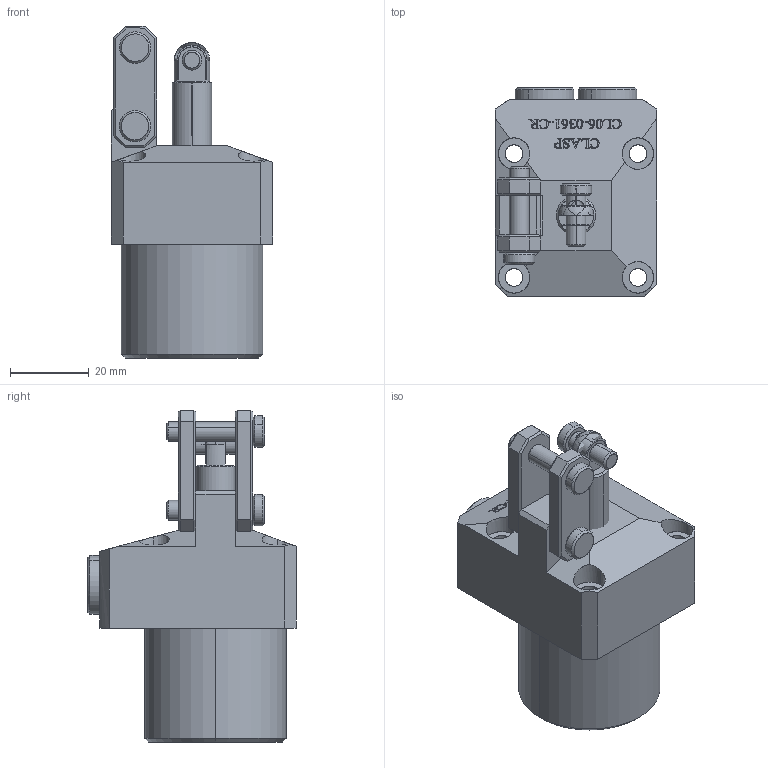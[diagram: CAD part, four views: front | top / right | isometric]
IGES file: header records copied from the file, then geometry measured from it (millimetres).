
Start section: SolidWorks IGES file using analytic representation for surfaces
Global section: file name: D:\karuppas\Clasp\3D model\Link clamp cylinder\CL06-361-CR\CL.06_0361CR.IGS; native system: SolidWorks 2017; preprocessor: SolidWorks 2017; author: pc; date: 220705.224758; units: millimetre
Bounding box: 41 x 53 x 84.51 mm (x, y, z)
Surface area: 19751.5 mm2 (no closed solid volume)
Topology: 0 solids, 0 shells, 539 faces, 7333 edges, 7328 vertices
Faces by surface type: bspline 436, revolution 103
